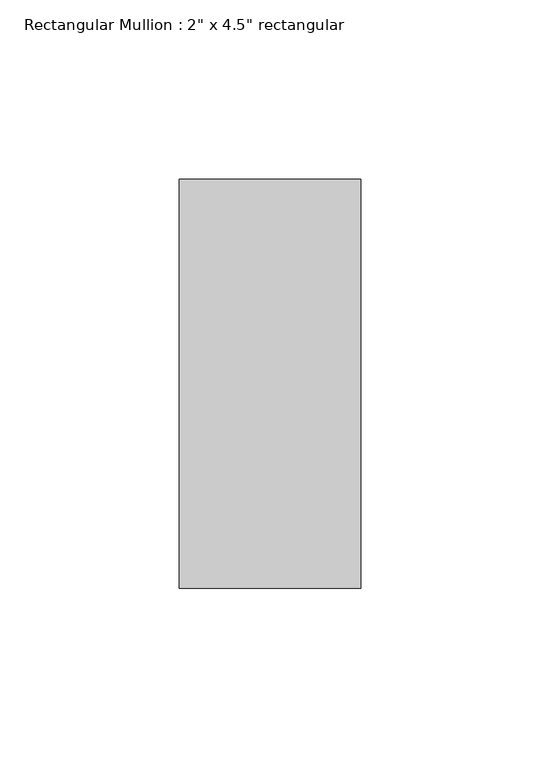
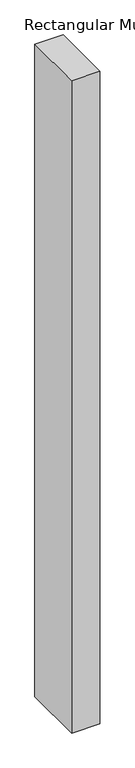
"""IFC4 building model written with IfcOpenShell, lengths in millimetres: member geometry."""

from ifc_helpers import new_model, si_unit, frame, origin, place, context, project, spatial, polyline, outline, extrude, source, transform, mapped, element, save


def member_6d95746d(model_context):
    return source(origin(), model_context, "Body", "SweptSolid", [
        extrude(outline(polyline([(0.0, 57.15), (0.0, -57.15), (-50.8, -57.15), (-50.8, 57.15), (0.0, 57.15)])), frame((0.0, 0.0, -1239.2377706), z_axis=(0.0, 0.0, 1.0), x_axis=(1.0, 0.0, 0.0)), (0.0, 0.0, 1.0), 1239.2377706),
    ])


if __name__ == "__main__":
    model = new_model("IFC4")
    model_context = context("Model", 3, world=origin())
    ifc_project = project(units=[si_unit("LENGTHUNIT", "METRE", prefix="MILLI")], contexts=[model_context])
    site = spatial("IfcSite", under=ifc_project)
    building = spatial("IfcBuilding", under=site)
    placement = place(None, origin())
    member_shape = member_6d95746d(model_context)
    element("IfcMember", 1, ObjectType="Rectangular Mullion : 2\" x 4.5\" rectangular", at=placement, inside=building, context=model_context, shape_type="MappedRepresentation", body=[
        mapped(member_shape, transform((0.0, 0.0, 0.0), x_axis=(1.0, 0.0, 0.0), y_axis=(0.0, 1.0, 0.0), z_axis=(0.0, 0.0, 1.0))),
    ])
    save(model, "model.ifc")
